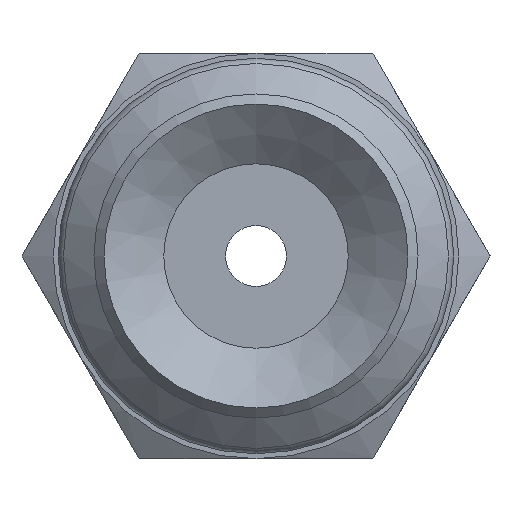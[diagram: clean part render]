
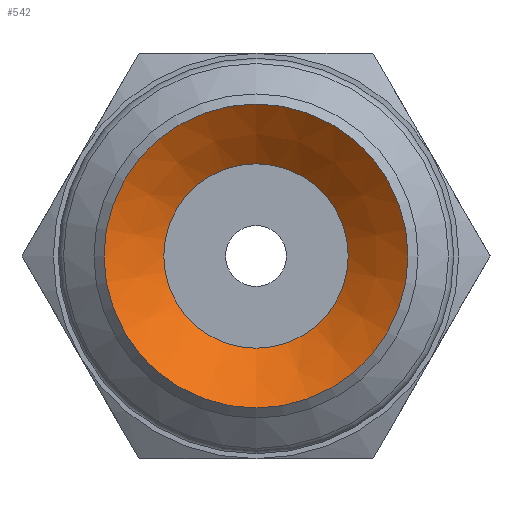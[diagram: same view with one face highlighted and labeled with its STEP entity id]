
A CAD part, front view. The second image highlights one B-rep face of the part: STEP entity #542.
In plain terms, the highlighted conical face has half-angle 52 degrees and reference radius 1.82 mm.
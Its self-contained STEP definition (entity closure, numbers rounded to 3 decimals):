
#542=ADVANCED_FACE('',(#783,#784),#785,.F.);
#783=FACE_BOUND('',#1071,.T.);
#784=FACE_OUTER_BOUND('',#1072,.T.);
#785=CONICAL_SURFACE('',#1073,1.82,0.908);
#1071=EDGE_LOOP('',(#1709));
#1072=EDGE_LOOP('',(#1710));
#1073=AXIS2_PLACEMENT_3D('',#1711,#1712,#1713);
#1709=ORIENTED_EDGE('',*,*,#2020,.F.);
#1710=ORIENTED_EDGE('',*,*,#2022,.T.);
#1711=CARTESIAN_POINT('',(0.0,6.889,0.0));
#1712=DIRECTION('',(-0.0,-1.0,0.));
#1713=DIRECTION('',(0.0,0.,-1.0));
#2020=EDGE_CURVE('',#2314,#2314,#2315,.T.);
#2022=EDGE_CURVE('',#2318,#2318,#2319,.T.);
#2314=VERTEX_POINT('',#2938);
#2315=CIRCLE('',#2939,1.82);
#2318=VERTEX_POINT('',#2942);
#2319=CIRCLE('',#2943,3.0);
#2938=CARTESIAN_POINT('',(0.0,6.889,-1.82));
#2939=AXIS2_PLACEMENT_3D('',#3263,#3264,#3265);
#2942=CARTESIAN_POINT('',(0.0,5.967,-3.0));
#2943=AXIS2_PLACEMENT_3D('',#3269,#3270,#3271);
#3263=CARTESIAN_POINT('',(0.0,6.889,0.0));
#3264=DIRECTION('',(0.0,-1.0,0.));
#3265=DIRECTION('',(0.0,0.,-1.0));
#3269=CARTESIAN_POINT('',(0.0,5.967,0.0));
#3270=DIRECTION('',(0.0,-1.0,0.));
#3271=DIRECTION('',(0.0,0.,-1.0));
